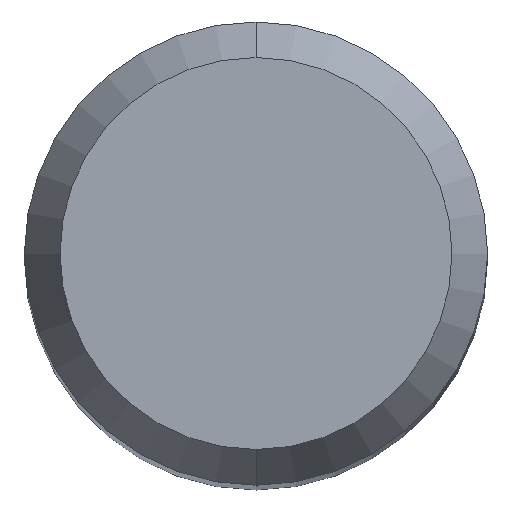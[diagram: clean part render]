
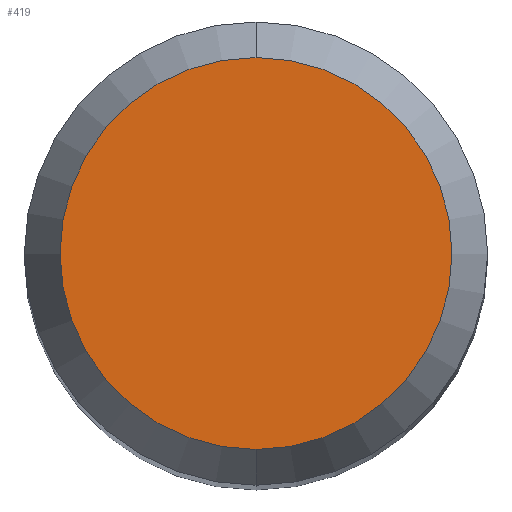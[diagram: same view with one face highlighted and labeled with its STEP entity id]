
A CAD part, top view. The second image highlights one B-rep face of the part: STEP entity #419.
In plain terms, the highlighted planar face has unit normal (0, 0, 1).
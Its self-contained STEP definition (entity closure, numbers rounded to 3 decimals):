
#215=VERTEX_POINT('',#547);
#331=EDGE_CURVE('',#471,#215,#675,.T.);
#383=EDGE_CURVE('',#215,#471,#731,.T.);
#419=ADVANCED_FACE('',(#772),#773,.T.);
#471=VERTEX_POINT('',#834);
#547=CARTESIAN_POINT('',(0.0,2.538,0.0));
#675=CIRCLE('',#1149,2.538);
#731=CIRCLE('',#1269,2.538);
#772=FACE_OUTER_BOUND('',#1343,.T.);
#773=PLANE('',#1344);
#834=CARTESIAN_POINT('',(0.,-2.538,0.0));
#1149=AXIS2_PLACEMENT_3D('',#1710,#1711,#1712);
#1269=AXIS2_PLACEMENT_3D('',#1760,#1761,#1762);
#1343=EDGE_LOOP('',(#1818,#1819));
#1344=AXIS2_PLACEMENT_3D('',#1820,#1821,#1822);
#1710=CARTESIAN_POINT('',(0.0,0.0,0.0));
#1711=DIRECTION('',(0.0,0.0,-1.0));
#1712=DIRECTION('',(0.0,1.0,0.0));
#1760=CARTESIAN_POINT('',(0.0,0.0,0.0));
#1761=DIRECTION('',(0.0,0.0,-1.0));
#1762=DIRECTION('',(0.0,1.0,0.0));
#1818=ORIENTED_EDGE('',*,*,#383,.F.);
#1819=ORIENTED_EDGE('',*,*,#331,.F.);
#1820=CARTESIAN_POINT('',(0.0,1.269,0.0));
#1821=DIRECTION('',(-0.0,0.0,1.0));
#1822=DIRECTION('',(0.0,-1.0,0.0));
